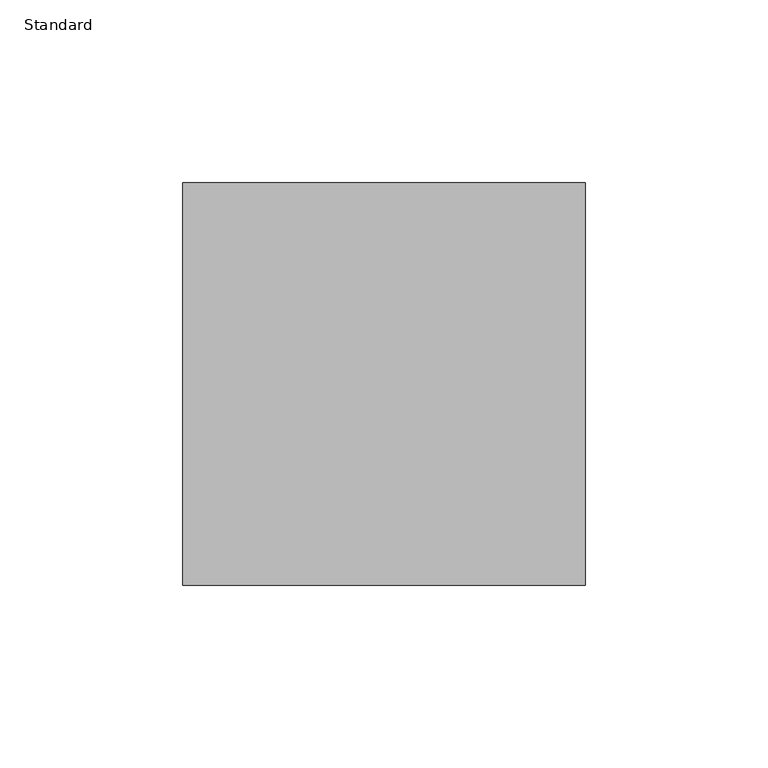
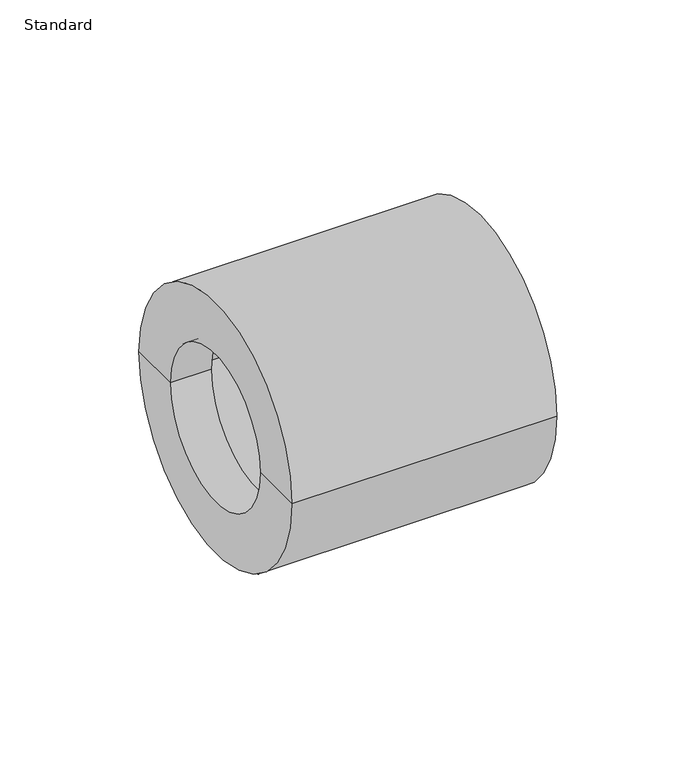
"""IFC4 building model written with IfcOpenShell, lengths in millimetres: pipe fitting geometry, Durapipe_PipeFitting_PVC_ReducingBush : Standard."""

from ifc_helpers import new_model, si_unit, frame, origin, place, context, project, spatial, polyline, circle_curve, source, transform, mapped, element, save
from ifc_brep_helpers import plane_surface, cylinder_surface, revolved_surface, advanced_brep


def standard_5d3190d7(model_context):
    return source(origin(), model_context, "Body", "AdvancedBrep", [
        advanced_brep(
        [(-17.0, -32.5, 0.0), (-17.0, 32.5, 0.0), (-17.0, 55.0, 0.0), (-17.0, -55.0, 0.0), (0.0, -32.5, 0.0), (0.0, 32.5, 0.0), (0.0, -37.5, 0.0), (0.0, 37.5, 0.0), (93.0, -37.5, 0.0), (93.0, 37.5, 0.0), (93.0, -55.0, 0.0), (93.0, 55.0, 0.0)],
        [
            (0, 1, circle_curve(frame((-17.0, 0.0, 0.0), z_axis=(1.0, 0.0, 0.0), x_axis=(0.0, 1.0, 0.0)), 32.5)),
            (1, 2),
            (2, 3, circle_curve(frame((-17.0, 0.0, 0.0), z_axis=(-1.0, 0.0, 0.0), x_axis=(0.0, 1.0, 0.0)), 55.0)),
            (3, 0),
            (1, 0, circle_curve(frame((-17.0, 0.0, 0.0), z_axis=(1.0, 0.0, 0.0), x_axis=(0.0, 1.0, 0.0)), 32.5)),
            (3, 2, circle_curve(frame((-17.0, 0.0, 0.0), z_axis=(-1.0, 0.0, 0.0), x_axis=(0.0, 1.0, 0.0)), 55.0)),
            (4, 5, circle_curve(frame((0.0, 0.0, 0.0), z_axis=(1.0, 0.0, 0.0), x_axis=(0.0, 1.0, 0.0)), 32.5)),
            (5, 1),
            (0, 4),
            (5, 4, circle_curve(frame((0.0, 0.0, 0.0), z_axis=(1.0, 0.0, 0.0), x_axis=(0.0, 1.0, 0.0)), 32.5)),
            (6, 7, circle_curve(frame((0.0, 0.0, 0.0), z_axis=(1.0, 0.0, 0.0), x_axis=(0.0, 1.0, 0.0)), 37.5)),
            (7, 5),
            (4, 6),
            (7, 6, circle_curve(frame((0.0, 0.0, 0.0), z_axis=(1.0, 0.0, 0.0), x_axis=(0.0, 1.0, 0.0)), 37.5)),
            (8, 9, circle_curve(frame((93.0, 0.0, 0.0), z_axis=(1.0, 0.0, 0.0), x_axis=(0.0, 1.0, 0.0)), 37.5)),
            (9, 7),
            (6, 8),
            (9, 8, circle_curve(frame((93.0, 0.0, 0.0), z_axis=(1.0, 0.0, 0.0), x_axis=(0.0, 1.0, 0.0)), 37.5)),
            (10, 11, circle_curve(frame((93.0, 0.0, 0.0), z_axis=(1.0, 0.0, 0.0), x_axis=(0.0, 1.0, 0.0)), 55.0)),
            (11, 9),
            (8, 10),
            (11, 10, circle_curve(frame((93.0, 0.0, 0.0), z_axis=(1.0, 0.0, 0.0), x_axis=(0.0, 1.0, 0.0)), 55.0)),
            (2, 11),
            (10, 3),
        ],
        [
            plane_surface(frame((-17.0, 0.0, 0.0), z_axis=(-1.0, 0.0, 0.0), x_axis=(0.0, 1.0, 0.0))),
            revolved_surface(polyline([(-17.0, 32.5, 0.0), (0.0, 32.5, 0.0)]), (2079.0, 0.0, 0.0), (-1.0, 0.0, 0.0)),
            plane_surface(frame((0.0, 0.0, 0.0), z_axis=(1.0, 0.0, 0.0), x_axis=(0.0, 1.0, 0.0))),
            revolved_surface(polyline([(0.0, 37.5, 0.0), (93.0, 37.5, 0.0)]), (2079.0, 0.0, 0.0), (-1.0, 0.0, 0.0)),
            plane_surface(frame((93.0, 0.0, 0.0), z_axis=(1.0, 0.0, 0.0), x_axis=(0.0, 1.0, 0.0))),
            cylinder_surface(frame((2079.0, 0.0, 0.0), z_axis=(-1.0, 0.0, 0.0), x_axis=(0.0, 1.0, 0.0)), 55.0),
        ],
        [
            (0, [[1, 2, 3, 4]]),
            (0, [[5, -4, 6, -2]]),
            (1, [[7, 8, -1, 9]]),
            (1, [[10, -9, -5, -8]]),
            (2, [[11, 12, -7, 13]]),
            (2, [[14, -13, -10, -12]]),
            (3, [[15, 16, -11, 17]]),
            (3, [[18, -17, -14, -16]]),
            (4, [[19, 20, -15, 21]]),
            (4, [[22, -21, -18, -20]]),
            (5, [[-3, 23, -19, 24]]),
            (5, [[-6, -24, -22, -23]]),
        ],
    ),
    ])


if __name__ == "__main__":
    model = new_model("IFC4")
    model_context = context("Model", 3, world=origin())
    ifc_project = project(units=[si_unit("LENGTHUNIT", "METRE", prefix="MILLI")], contexts=[model_context])
    site = spatial("IfcSite", under=ifc_project)
    building = spatial("IfcBuilding", under=site)
    placement = place(None, origin())
    standard_shape = standard_5d3190d7(model_context)
    element("IfcPipeFitting", 1, ObjectType="Durapipe_PipeFitting_PVC_ReducingBush : Standard", at=placement, inside=building, context=model_context, shape_type="MappedRepresentation", body=[
        mapped(standard_shape, transform((0.0, 0.0, 0.0), x_axis=(1.0, 0.0, 0.0), y_axis=(0.0, 1.0, 0.0), z_axis=(0.0, 0.0, 1.0))),
    ])
    save(model, "model.ifc")
